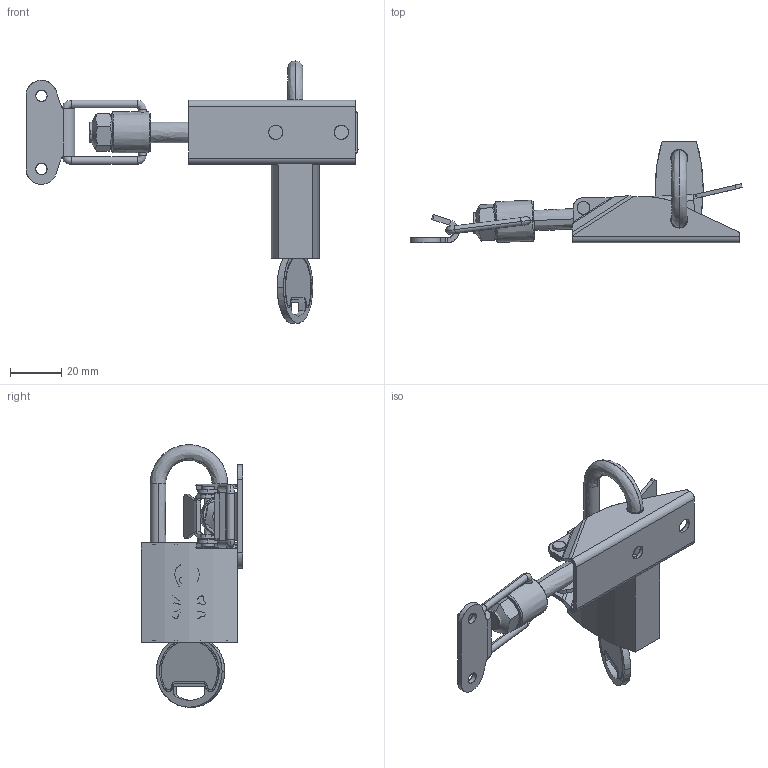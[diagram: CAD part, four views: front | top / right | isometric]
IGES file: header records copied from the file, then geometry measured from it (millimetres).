
Start section: SolidWorks IGES file using analytic representation for surfaces
Global section: file name: C:\Projetos\Grampos\KFC3\KFC3.IGS; native system: SolidWorks 2013; preprocessor: SolidWorks 2013; author: Ricardo; date: 140822.150612; units: millimetre
Bounding box: 129.12 x 39.61 x 102.05 mm (x, y, z)
Surface area: 39350.1 mm2 (no closed solid volume)
Topology: 0 solids, 0 shells, 558 faces, 7933 edges, 7932 vertices
Faces by surface type: bspline 350, revolution 208
